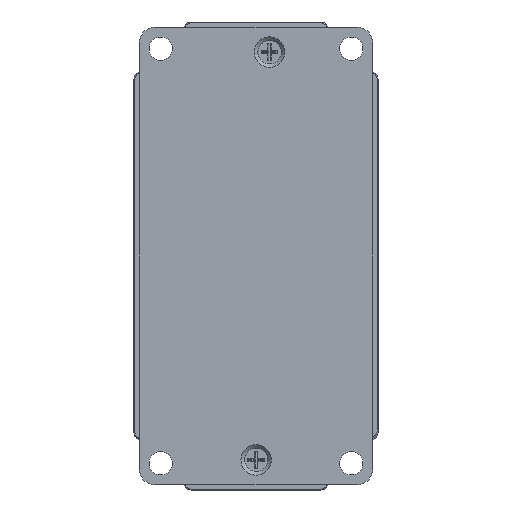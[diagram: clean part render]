
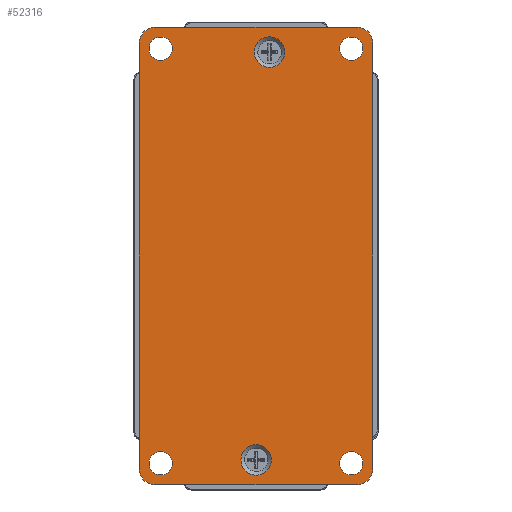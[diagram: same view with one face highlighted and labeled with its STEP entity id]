
A CAD part, front view. The second image highlights one B-rep face of the part: STEP entity #52316.
In plain terms, the highlighted planar face has unit normal (0, -1, 0).
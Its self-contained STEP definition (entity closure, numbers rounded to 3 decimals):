
#52226 = ORIENTED_EDGE ( 'NONE', *, *, #52310, .T. ) ;
#52232 = EDGE_LOOP ( 'NONE', ( #52226 ) ) ;
#52303 = EDGE_CURVE ( 'NONE', #84196, #84196, #53646, .T. ) ;
#52305 = VERTEX_POINT ( 'NONE', #53509 ) ;
#52306 = VERTEX_POINT ( 'NONE', #53632 ) ;
#52310 = EDGE_CURVE ( 'NONE', #84193, #84193, #53630, .T. ) ;
#52311 = EDGE_CURVE ( 'NONE', #52305, #52306, #53607, .T. ) ;
#52313 = EDGE_CURVE ( 'NONE', #52305, #52340, #53637, .T. ) ;
#52316 = ADVANCED_FACE ( 'NONE', ( #53590, #53621, #53601, #53722, #53594, #53613, #53721 ), #53619, .T. ) ;
#52318 = VERTEX_POINT ( 'NONE', #53592 ) ;
#52321 = EDGE_LOOP ( 'NONE', ( #52324 ) ) ;
#52324 = ORIENTED_EDGE ( 'NONE', *, *, #52303, .T. ) ;
#52326 = ORIENTED_EDGE ( 'NONE', *, *, #52417, .F. ) ;
#52330 = EDGE_LOOP ( 'NONE', ( #52344, #52335, #52326, #52434, #52445, #52431, #52385, #52377 ) ) ;
#52333 = EDGE_LOOP ( 'NONE', ( #52398 ) ) ;
#52335 = ORIENTED_EDGE ( 'NONE', *, *, #52313, .T. ) ;
#52337 = VERTEX_POINT ( 'NONE', #53716 ) ;
#52340 = VERTEX_POINT ( 'NONE', #53707 ) ;
#52344 = ORIENTED_EDGE ( 'NONE', *, *, #52311, .F. ) ;
#52375 = EDGE_CURVE ( 'NONE', #84191, #84191, #53695, .T. ) ;
#52377 = ORIENTED_EDGE ( 'NONE', *, *, #52439, .T. ) ;
#52381 = EDGE_CURVE ( 'NONE', #52429, #52422, #53676, .T. ) ;
#52383 = EDGE_CURVE ( 'NONE', #84194, #84194, #53666, .T. ) ;
#52385 = ORIENTED_EDGE ( 'NONE', *, *, #52381, .F. ) ;
#52386 = ORIENTED_EDGE ( 'NONE', *, *, #52375, .T. ) ;
#52388 = EDGE_CURVE ( 'NONE', #84188, #84188, #53787, .T. ) ;
#52391 = EDGE_LOOP ( 'NONE', ( #52386 ) ) ;
#52394 = ORIENTED_EDGE ( 'NONE', *, *, #52383, .T. ) ;
#52398 = ORIENTED_EDGE ( 'NONE', *, *, #52388, .T. ) ;
#52400 = EDGE_CURVE ( 'NONE', #84185, #84185, #53777, .T. ) ;
#52405 = EDGE_LOOP ( 'NONE', ( #52500 ) ) ;
#52410 = EDGE_LOOP ( 'NONE', ( #52394 ) ) ;
#52414 = EDGE_CURVE ( 'NONE', #52424, #52422, #53774, .T. ) ;
#52417 = EDGE_CURVE ( 'NONE', #52337, #52340, #53771, .T. ) ;
#52422 = VERTEX_POINT ( 'NONE', #53765 ) ;
#52424 = VERTEX_POINT ( 'NONE', #53762 ) ;
#52425 = EDGE_CURVE ( 'NONE', #52337, #52318, #53739, .T. ) ;
#52429 = VERTEX_POINT ( 'NONE', #53758 ) ;
#52431 = ORIENTED_EDGE ( 'NONE', *, *, #52414, .T. ) ;
#52434 = ORIENTED_EDGE ( 'NONE', *, *, #52425, .T. ) ;
#52437 = EDGE_CURVE ( 'NONE', #52424, #52318, #53854, .T. ) ;
#52439 = EDGE_CURVE ( 'NONE', #52429, #52306, #53773, .T. ) ;
#52445 = ORIENTED_EDGE ( 'NONE', *, *, #52437, .F. ) ;
#52500 = ORIENTED_EDGE ( 'NONE', *, *, #52400, .T. ) ;
#53507 = CARTESIAN_POINT ( 'NONE',  ( 28.5, -28.4, 62. ) ) ;
#53509 = CARTESIAN_POINT ( 'NONE',  ( 35., -28.4, 63.5 ) ) ;
#53586 = CARTESIAN_POINT ( 'NONE',  ( 30., -28.4, 63.5 ) ) ;
#53590 = FACE_BOUND ( 'NONE', #52232, .T. ) ;
#53592 = CARTESIAN_POINT ( 'NONE',  ( -35., -28.4, 63.5 ) ) ;
#53594 = FACE_BOUND ( 'NONE', #52410, .T. ) ;
#53595 = DIRECTION ( 'NONE',  ( 0., -1., 0. ) ) ;
#53597 = DIRECTION ( 'NONE',  ( 0., 0., -1. ) ) ;
#53599 = VECTOR ( 'NONE', #53597, 1000. ) ;
#53601 = FACE_OUTER_BOUND ( 'NONE', #52330, .T. ) ;
#53605 = CARTESIAN_POINT ( 'NONE',  ( 35., -28.4, -68.5 ) ) ;
#53607 = LINE ( 'NONE', #53605, #53599 ) ;
#53609 = DIRECTION ( 'NONE',  ( 0., 0., 1. ) ) ;
#53610 = DIRECTION ( 'NONE',  ( 0., 1., 0. ) ) ;
#53611 = CARTESIAN_POINT ( 'NONE',  ( -28.5, -28.4, -62. ) ) ;
#53613 = FACE_BOUND ( 'NONE', #52391, .T. ) ;
#53615 = DIRECTION ( 'NONE',  ( 0., 0., -1. ) ) ;
#53618 = AXIS2_PLACEMENT_3D ( 'NONE', #53611, #53610, #53609 ) ;
#53619 = PLANE ( 'NONE',  #53628 ) ;
#53621 = FACE_BOUND ( 'NONE', #52321, .T. ) ;
#53624 = CARTESIAN_POINT ( 'NONE',  ( -35., -28.4, 68.5 ) ) ;
#53626 = DIRECTION ( 'NONE',  ( 0., 0., 1. ) ) ;
#53628 = AXIS2_PLACEMENT_3D ( 'NONE', #53624, #53595, #53615 ) ;
#53630 = CIRCLE ( 'NONE', #53618, 3.5 ) ;
#53632 = CARTESIAN_POINT ( 'NONE',  ( 35., -28.4, -63.5 ) ) ;
#53634 = AXIS2_PLACEMENT_3D ( 'NONE', #53586, #53654, #53723 ) ;
#53637 = CIRCLE ( 'NONE', #53634, 5. ) ;
#53646 = CIRCLE ( 'NONE', #53658, 3.5 ) ;
#53654 = DIRECTION ( 'NONE',  ( 0., -1., 0. ) ) ;
#53655 = DIRECTION ( 'NONE',  ( 0., 1., 0. ) ) ;
#53658 = AXIS2_PLACEMENT_3D ( 'NONE', #53507, #53655, #53626 ) ;
#53660 = CARTESIAN_POINT ( 'NONE',  ( 28.5, -28.4, -62. ) ) ;
#53663 = VECTOR ( 'NONE', #53673, 1000. ) ;
#53666 = CIRCLE ( 'NONE', #53705, 3.5 ) ;
#53669 = DIRECTION ( 'NONE',  ( 0., 0., 1. ) ) ;
#53670 = DIRECTION ( 'NONE',  ( 0., 1., 0. ) ) ;
#53672 = CARTESIAN_POINT ( 'NONE',  ( 4.048, -28.4, 61. ) ) ;
#53673 = DIRECTION ( 'NONE',  ( -1., 0., 0. ) ) ;
#53675 = CARTESIAN_POINT ( 'NONE',  ( -35., -28.4, -68.5 ) ) ;
#53676 = LINE ( 'NONE', #53675, #53663 ) ;
#53680 = AXIS2_PLACEMENT_3D ( 'NONE', #53672, #53670, #53669 ) ;
#53695 = CIRCLE ( 'NONE', #53680, 4.55 ) ;
#53705 = AXIS2_PLACEMENT_3D ( 'NONE', #53660, #53795, #53793 ) ;
#53707 = CARTESIAN_POINT ( 'NONE',  ( 30., -28.4, 68.5 ) ) ;
#53716 = CARTESIAN_POINT ( 'NONE',  ( -30., -28.4, 68.5 ) ) ;
#53721 = FACE_BOUND ( 'NONE', #52405, .T. ) ;
#53722 = FACE_BOUND ( 'NONE', #52333, .T. ) ;
#53723 = DIRECTION ( 'NONE',  ( 0., 0., 1. ) ) ;
#53727 = DIRECTION ( 'NONE',  ( 0., 0., 1. ) ) ;
#53728 = DIRECTION ( 'NONE',  ( 0., -1., 0. ) ) ;
#53729 = CARTESIAN_POINT ( 'NONE',  ( -30., -28.4, 63.5 ) ) ;
#53730 = AXIS2_PLACEMENT_3D ( 'NONE', #53729, #53728, #53727 ) ;
#53734 = CARTESIAN_POINT ( 'NONE',  ( 30., -28.4, -63.5 ) ) ;
#53739 = CIRCLE ( 'NONE', #53730, 5. ) ;
#53742 = DIRECTION ( 'NONE',  ( 1., 0., 0. ) ) ;
#53744 = VECTOR ( 'NONE', #53742, 1000. ) ;
#53746 = CARTESIAN_POINT ( 'NONE',  ( -35., -28.4, 68.5 ) ) ;
#53753 = DIRECTION ( 'NONE',  ( 0., 0., 1. ) ) ;
#53754 = DIRECTION ( 'NONE',  ( 0., -1., 0. ) ) ;
#53755 = CARTESIAN_POINT ( 'NONE',  ( -30., -28.4, -63.5 ) ) ;
#53758 = CARTESIAN_POINT ( 'NONE',  ( 30., -28.4, -68.5 ) ) ;
#53760 = AXIS2_PLACEMENT_3D ( 'NONE', #53755, #53754, #53753 ) ;
#53762 = CARTESIAN_POINT ( 'NONE',  ( -35., -28.4, -63.5 ) ) ;
#53765 = CARTESIAN_POINT ( 'NONE',  ( -30., -28.4, -68.5 ) ) ;
#53767 = DIRECTION ( 'NONE',  ( 0., 0., 1. ) ) ;
#53769 = DIRECTION ( 'NONE',  ( 0., 1., 0. ) ) ;
#53771 = LINE ( 'NONE', #53746, #53744 ) ;
#53773 = CIRCLE ( 'NONE', #53858, 5. ) ;
#53774 = CIRCLE ( 'NONE', #53760, 5. ) ;
#53777 = CIRCLE ( 'NONE', #53791, 4.55 ) ;
#53780 = DIRECTION ( 'NONE',  ( 0., 0., 1. ) ) ;
#53782 = DIRECTION ( 'NONE',  ( 0., 1., 0. ) ) ;
#53784 = CARTESIAN_POINT ( 'NONE',  ( -28.5, -28.4, 62. ) ) ;
#53785 = AXIS2_PLACEMENT_3D ( 'NONE', #53784, #53782, #53780 ) ;
#53787 = CIRCLE ( 'NONE', #53785, 3.5 ) ;
#53791 = AXIS2_PLACEMENT_3D ( 'NONE', #53796, #53769, #53767 ) ;
#53793 = DIRECTION ( 'NONE',  ( 0., 0., 1. ) ) ;
#53795 = DIRECTION ( 'NONE',  ( 0., 1., 0. ) ) ;
#53796 = CARTESIAN_POINT ( 'NONE',  ( 0.05, -28.4, -61. ) ) ;
#53837 = DIRECTION ( 'NONE',  ( 0., 0., 1. ) ) ;
#53838 = DIRECTION ( 'NONE',  ( 0., -1., 0. ) ) ;
#53846 = DIRECTION ( 'NONE',  ( 0., 0., 1. ) ) ;
#53848 = VECTOR ( 'NONE', #53846, 1000. ) ;
#53853 = CARTESIAN_POINT ( 'NONE',  ( -35., -28.4, -68.5 ) ) ;
#53854 = LINE ( 'NONE', #53853, #53848 ) ;
#53858 = AXIS2_PLACEMENT_3D ( 'NONE', #53734, #53838, #53837 ) ;
#84184 = CARTESIAN_POINT ( 'NONE',  ( 0.05, -28.4, -56.45 ) ) ;
#84185 = VERTEX_POINT ( 'NONE', #84184 ) ;
#84187 = CARTESIAN_POINT ( 'NONE',  ( -28.5, -28.4, 65.5 ) ) ;
#84188 = VERTEX_POINT ( 'NONE', #84187 ) ;
#84189 = CARTESIAN_POINT ( 'NONE',  ( 28.5, -28.4, -58.5 ) ) ;
#84190 = CARTESIAN_POINT ( 'NONE',  ( 4.048, -28.4, 65.55 ) ) ;
#84191 = VERTEX_POINT ( 'NONE', #84190 ) ;
#84192 = CARTESIAN_POINT ( 'NONE',  ( -28.5, -28.4, -58.5 ) ) ;
#84193 = VERTEX_POINT ( 'NONE', #84192 ) ;
#84194 = VERTEX_POINT ( 'NONE', #84189 ) ;
#84195 = CARTESIAN_POINT ( 'NONE',  ( 28.5, -28.4, 65.5 ) ) ;
#84196 = VERTEX_POINT ( 'NONE', #84195 ) ;
